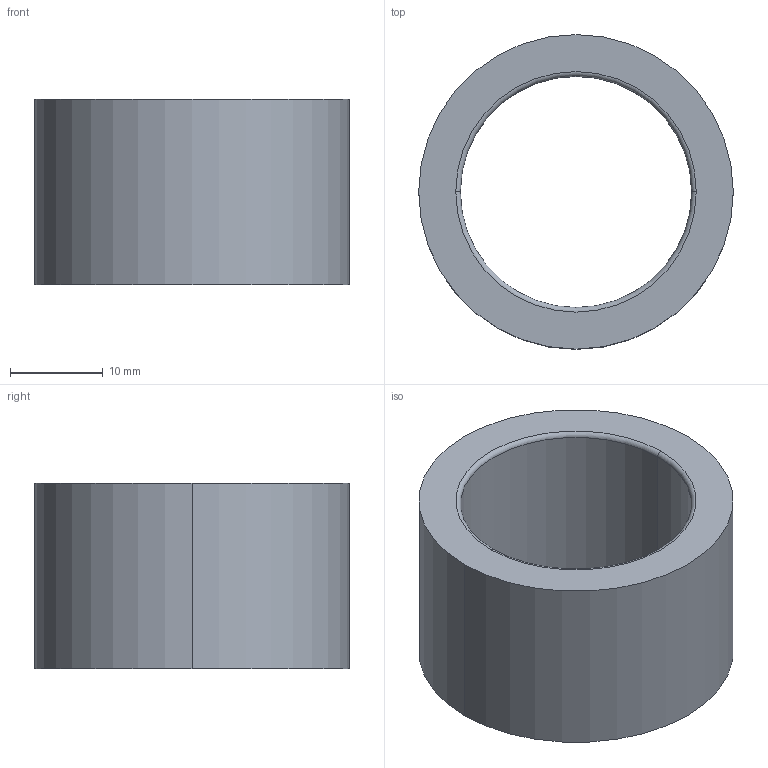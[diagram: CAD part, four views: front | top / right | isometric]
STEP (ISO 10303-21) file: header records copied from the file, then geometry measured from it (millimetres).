
FILE_DESCRIPTION(/* description */ (''),/* implementation_level */ '2;1');
FILE_NAME(/* name */ '3d_sgbz25-20_00304_r00.stp',/* time_stamp */ '2011-01-10T14:11:11+09:00',/* author */ ('MISUMI'),/* organization */ (''),/* preprocessor_version */ 'ST-DEVELOPER v11',/* originating_system */ 'UGS - NX 5.0',/* authorisation */ '');
FILE_SCHEMA (('CONFIG_CONTROL_DESIGN'));
Length unit declared in the file: millimetre
Products named in the file (1): 3d_sgbz25-20_00304_r00
Bounding box: 34 x 34 x 20 mm (x, y, z)
Volume: 8332.4 mm3; surface area: 4507.7 mm2
Topology: 1 solids, 1 shells, 10 faces, 20 edges, 12 vertices
Faces by surface type: cylinder 4, torus 4, plane 2
Entity records: 358 total; most frequent: DIRECTION 58, CARTESIAN_POINT 43, ORIENTED_EDGE 40, AXIS2_PLACEMENT_3D 27, EDGE_CURVE 20, CIRCLE 16, EDGE_LOOP 12, VERTEX_POINT 12
